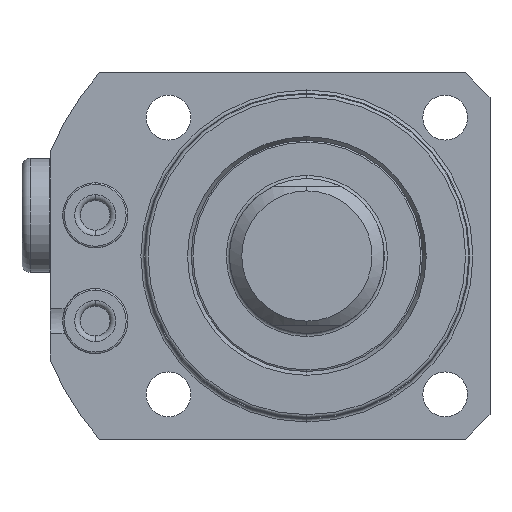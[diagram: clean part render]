
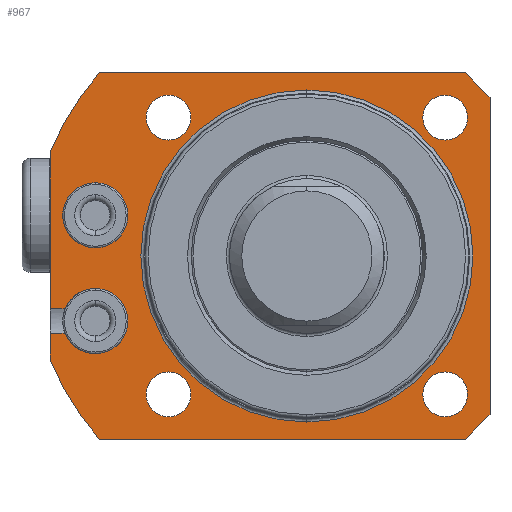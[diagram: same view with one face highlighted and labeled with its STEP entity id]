
A CAD part, front view. The second image highlights one B-rep face of the part: STEP entity #967.
In plain terms, the highlighted planar face has unit normal (0, -1, 0).
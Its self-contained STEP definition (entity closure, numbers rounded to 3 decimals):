
#370=PLANE('',#3947);
#428=FACE_BOUND('',#1456,.T.);
#429=FACE_BOUND('',#1457,.T.);
#430=FACE_BOUND('',#1458,.T.);
#431=FACE_BOUND('',#1459,.T.);
#432=FACE_BOUND('',#1460,.T.);
#433=FACE_BOUND('',#1461,.T.);
#434=FACE_BOUND('',#1462,.T.);
#652=LINE('',#6178,#815);
#653=LINE('',#6181,#816);
#654=LINE('',#6183,#817);
#655=LINE('',#6187,#818);
#656=LINE('',#6189,#819);
#657=LINE('',#6191,#820);
#658=LINE('',#6193,#821);
#659=LINE('',#6195,#822);
#660=LINE('',#6199,#823);
#815=VECTOR('',#4798,1.);
#816=VECTOR('',#4801,1.);
#817=VECTOR('',#4802,1.);
#818=VECTOR('',#4805,1.);
#819=VECTOR('',#4806,1.);
#820=VECTOR('',#4807,1.);
#821=VECTOR('',#4808,1.);
#822=VECTOR('',#4809,1.);
#823=VECTOR('',#4812,1.);
#967=ADVANCED_FACE('',(#428,#429,#430,#431,#432,#433,#434),#370,.T.);
#1456=EDGE_LOOP('',(#2013,#2014,#2015,#2016,#2017,#2018,#2019,#2020,#2021,
#2022,#2023,#2024,#2025,#2026));
#1457=EDGE_LOOP('',(#2027,#2028));
#1458=EDGE_LOOP('',(#2029,#2030));
#1459=EDGE_LOOP('',(#2031,#2032));
#1460=EDGE_LOOP('',(#2033,#2034));
#1461=EDGE_LOOP('',(#2035,#2036));
#1462=EDGE_LOOP('',(#2037,#2038));
#2013=ORIENTED_EDGE('',*,*,#3185,.F.);
#2014=ORIENTED_EDGE('',*,*,#3043,.F.);
#2015=ORIENTED_EDGE('',*,*,#3186,.F.);
#2016=ORIENTED_EDGE('',*,*,#3045,.F.);
#2017=ORIENTED_EDGE('',*,*,#3187,.F.);
#2018=ORIENTED_EDGE('',*,*,#3188,.T.);
#2019=ORIENTED_EDGE('',*,*,#3189,.T.);
#2020=ORIENTED_EDGE('',*,*,#3190,.T.);
#2021=ORIENTED_EDGE('',*,*,#3191,.T.);
#2022=ORIENTED_EDGE('',*,*,#3192,.T.);
#2023=ORIENTED_EDGE('',*,*,#3193,.T.);
#2024=ORIENTED_EDGE('',*,*,#3194,.T.);
#2025=ORIENTED_EDGE('',*,*,#3195,.T.);
#2026=ORIENTED_EDGE('',*,*,#3196,.T.);
#2027=ORIENTED_EDGE('',*,*,#3197,.F.);
#2028=ORIENTED_EDGE('',*,*,#3039,.F.);
#2029=ORIENTED_EDGE('',*,*,#3067,.F.);
#2030=ORIENTED_EDGE('',*,*,#3198,.F.);
#2031=ORIENTED_EDGE('',*,*,#3075,.F.);
#2032=ORIENTED_EDGE('',*,*,#3199,.F.);
#2033=ORIENTED_EDGE('',*,*,#3083,.F.);
#2034=ORIENTED_EDGE('',*,*,#3200,.F.);
#2035=ORIENTED_EDGE('',*,*,#3091,.F.);
#2036=ORIENTED_EDGE('',*,*,#3201,.F.);
#2037=ORIENTED_EDGE('',*,*,#3202,.F.);
#2038=ORIENTED_EDGE('',*,*,#3134,.F.);
#2685=VERTEX_POINT('',#5696);
#2686=VERTEX_POINT('',#5698);
#2689=VERTEX_POINT('',#5705);
#2690=VERTEX_POINT('',#5707);
#2691=VERTEX_POINT('',#5712);
#2692=VERTEX_POINT('',#5714);
#2711=VERTEX_POINT('',#5831);
#2712=VERTEX_POINT('',#5832);
#2719=VERTEX_POINT('',#5858);
#2720=VERTEX_POINT('',#5859);
#2727=VERTEX_POINT('',#5885);
#2728=VERTEX_POINT('',#5886);
#2735=VERTEX_POINT('',#5912);
#2736=VERTEX_POINT('',#5913);
#2769=VERTEX_POINT('',#6029);
#2770=VERTEX_POINT('',#6031);
#2809=VERTEX_POINT('',#6179);
#2810=VERTEX_POINT('',#6182);
#2811=VERTEX_POINT('',#6184);
#2812=VERTEX_POINT('',#6186);
#2813=VERTEX_POINT('',#6188);
#2814=VERTEX_POINT('',#6190);
#2815=VERTEX_POINT('',#6192);
#2816=VERTEX_POINT('',#6194);
#2817=VERTEX_POINT('',#6196);
#2818=VERTEX_POINT('',#6198);
#3039=EDGE_CURVE('',#2685,#2686,#3490,.T.);
#3043=EDGE_CURVE('',#2689,#2690,#3492,.T.);
#3045=EDGE_CURVE('',#2691,#2692,#3493,.T.);
#3067=EDGE_CURVE('',#2711,#2712,#3499,.T.);
#3075=EDGE_CURVE('',#2719,#2720,#3502,.T.);
#3083=EDGE_CURVE('',#2727,#2728,#3505,.T.);
#3091=EDGE_CURVE('',#2735,#2736,#3508,.T.);
#3134=EDGE_CURVE('',#2769,#2770,#3534,.T.);
#3185=EDGE_CURVE('',#2690,#2809,#652,.T.);
#3186=EDGE_CURVE('',#2692,#2689,#3558,.T.);
#3187=EDGE_CURVE('',#2810,#2691,#653,.T.);
#3188=EDGE_CURVE('',#2810,#2811,#654,.T.);
#3189=EDGE_CURVE('',#2811,#2812,#3559,.T.);
#3190=EDGE_CURVE('',#2812,#2813,#655,.T.);
#3191=EDGE_CURVE('',#2813,#2814,#656,.T.);
#3192=EDGE_CURVE('',#2814,#2815,#657,.T.);
#3193=EDGE_CURVE('',#2815,#2816,#658,.T.);
#3194=EDGE_CURVE('',#2816,#2817,#659,.T.);
#3195=EDGE_CURVE('',#2817,#2818,#3560,.T.);
#3196=EDGE_CURVE('',#2818,#2809,#660,.T.);
#3197=EDGE_CURVE('',#2686,#2685,#3561,.T.);
#3198=EDGE_CURVE('',#2712,#2711,#3562,.T.);
#3199=EDGE_CURVE('',#2720,#2719,#3563,.T.);
#3200=EDGE_CURVE('',#2728,#2727,#3564,.T.);
#3201=EDGE_CURVE('',#2736,#2735,#3565,.T.);
#3202=EDGE_CURVE('',#2770,#2769,#3566,.T.);
#3490=CIRCLE('',#3834,4.);
#3492=CIRCLE('',#3837,4.);
#3493=CIRCLE('',#3838,4.);
#3499=CIRCLE('',#3851,2.75);
#3502=CIRCLE('',#3856,2.75);
#3505=CIRCLE('',#3861,2.75);
#3508=CIRCLE('',#3866,2.75);
#3534=CIRCLE('',#3903,20.4);
#3558=CIRCLE('',#3938,4.);
#3559=CIRCLE('',#3939,34.);
#3560=CIRCLE('',#3940,34.);
#3561=CIRCLE('',#3941,4.);
#3562=CIRCLE('',#3942,2.75);
#3563=CIRCLE('',#3943,2.75);
#3564=CIRCLE('',#3944,2.75);
#3565=CIRCLE('',#3945,2.75);
#3566=CIRCLE('',#3946,20.4);
#3834=AXIS2_PLACEMENT_3D('',#5697,#4531,#4532);
#3837=AXIS2_PLACEMENT_3D('',#5706,#4539,#4540);
#3838=AXIS2_PLACEMENT_3D('',#5713,#4541,#4542);
#3851=AXIS2_PLACEMENT_3D('',#5830,#4580,#4581);
#3856=AXIS2_PLACEMENT_3D('',#5857,#4594,#4595);
#3861=AXIS2_PLACEMENT_3D('',#5884,#4608,#4609);
#3866=AXIS2_PLACEMENT_3D('',#5911,#4622,#4623);
#3903=AXIS2_PLACEMENT_3D('',#6030,#4712,#4713);
#3938=AXIS2_PLACEMENT_3D('',#6180,#4799,#4800);
#3939=AXIS2_PLACEMENT_3D('',#6185,#4803,#4804);
#3940=AXIS2_PLACEMENT_3D('',#6197,#4810,#4811);
#3941=AXIS2_PLACEMENT_3D('',#6200,#4813,#4814);
#3942=AXIS2_PLACEMENT_3D('',#6201,#4815,#4816);
#3943=AXIS2_PLACEMENT_3D('',#6202,#4817,#4818);
#3944=AXIS2_PLACEMENT_3D('',#6203,#4819,#4820);
#3945=AXIS2_PLACEMENT_3D('',#6204,#4821,#4822);
#3946=AXIS2_PLACEMENT_3D('',#6205,#4823,#4824);
#3947=AXIS2_PLACEMENT_3D('',#6206,#4825,#4826);
#4531=DIRECTION('',(0.,-1.,0.));
#4532=DIRECTION('',(0.,0.,-1.));
#4539=DIRECTION('',(0.,-1.,0.));
#4540=DIRECTION('',(0.,0.,-1.));
#4541=DIRECTION('',(0.,-1.,0.));
#4542=DIRECTION('',(0.,0.,-1.));
#4580=DIRECTION('',(0.,-1.,0.));
#4581=DIRECTION('',(0.,0.,-1.));
#4594=DIRECTION('',(0.,-1.,0.));
#4595=DIRECTION('',(0.,0.,-1.));
#4608=DIRECTION('',(0.,-1.,0.));
#4609=DIRECTION('',(0.,0.,-1.));
#4622=DIRECTION('',(0.,-1.,0.));
#4623=DIRECTION('',(0.,0.,-1.));
#4712=DIRECTION('',(0.,-1.,0.));
#4713=DIRECTION('',(0.,0.,-1.));
#4798=DIRECTION('',(-1.,0.,0.));
#4799=DIRECTION('',(0.,-1.,0.));
#4800=DIRECTION('',(0.,0.,-1.));
#4801=DIRECTION('',(1.,0.,0.));
#4802=DIRECTION('',(0.,0.,-1.));
#4803=DIRECTION('',(0.,-1.,0.));
#4804=DIRECTION('',(0.,0.,-1.));
#4805=DIRECTION('',(1.,0.,0.));
#4806=DIRECTION('',(0.707,0.,0.707));
#4807=DIRECTION('',(0.,0.,1.));
#4808=DIRECTION('',(-0.707,0.,0.707));
#4809=DIRECTION('',(-1.,0.,0.));
#4810=DIRECTION('',(0.,-1.,0.));
#4811=DIRECTION('',(0.,0.,-1.));
#4812=DIRECTION('',(0.,0.,-1.));
#4813=DIRECTION('',(0.,-1.,0.));
#4814=DIRECTION('',(0.,0.,-1.));
#4815=DIRECTION('',(0.,-1.,0.));
#4816=DIRECTION('',(0.,0.,-1.));
#4817=DIRECTION('',(0.,-1.,0.));
#4818=DIRECTION('',(0.,0.,-1.));
#4819=DIRECTION('',(0.,-1.,0.));
#4820=DIRECTION('',(0.,0.,-1.));
#4821=DIRECTION('',(0.,-1.,0.));
#4822=DIRECTION('',(0.,0.,-1.));
#4823=DIRECTION('',(0.,-1.,0.));
#4824=DIRECTION('',(0.,0.,-1.));
#4825=DIRECTION('',(0.,-1.,0.));
#4826=DIRECTION('',(0.,0.,1.));
#5696=CARTESIAN_POINT('',(-26.,60.163,9.));
#5697=CARTESIAN_POINT('',(-26.,60.163,5.));
#5698=CARTESIAN_POINT('',(-26.,60.163,1.));
#5705=CARTESIAN_POINT('',(-26.,60.163,-4.));
#5706=CARTESIAN_POINT('',(-26.,60.163,-8.));
#5707=CARTESIAN_POINT('',(-29.7,60.163,-6.48));
#5712=CARTESIAN_POINT('',(-29.7,60.163,-9.52));
#5713=CARTESIAN_POINT('',(-26.,60.163,-8.));
#5714=CARTESIAN_POINT('',(-26.,60.163,-12.));
#5830=CARTESIAN_POINT('',(-17.,60.163,-17.));
#5831=CARTESIAN_POINT('',(-17.,60.163,-14.25));
#5832=CARTESIAN_POINT('',(-17.,60.163,-19.75));
#5857=CARTESIAN_POINT('',(17.,60.163,-17.));
#5858=CARTESIAN_POINT('',(17.,60.163,-14.25));
#5859=CARTESIAN_POINT('',(17.,60.163,-19.75));
#5884=CARTESIAN_POINT('',(17.,60.163,17.));
#5885=CARTESIAN_POINT('',(17.,60.163,19.75));
#5886=CARTESIAN_POINT('',(17.,60.163,14.25));
#5911=CARTESIAN_POINT('',(-17.,60.163,17.));
#5912=CARTESIAN_POINT('',(-17.,60.163,19.75));
#5913=CARTESIAN_POINT('',(-17.,60.163,14.25));
#6029=CARTESIAN_POINT('',(0.,60.163,20.4));
#6030=CARTESIAN_POINT('',(0.,60.163,0.));
#6031=CARTESIAN_POINT('',(0.,60.163,-20.4));
#6178=CARTESIAN_POINT('',(-26.5,60.163,-6.48));
#6179=CARTESIAN_POINT('',(-31.5,60.163,-6.48));
#6180=CARTESIAN_POINT('',(-26.,60.163,-8.));
#6181=CARTESIAN_POINT('',(-26.5,60.163,-9.52));
#6182=CARTESIAN_POINT('',(-31.5,60.163,-9.52));
#6183=CARTESIAN_POINT('',(-31.5,60.163,0.));
#6184=CARTESIAN_POINT('',(-31.5,60.163,-12.796));
#6185=CARTESIAN_POINT('',(0.,60.163,0.));
#6186=CARTESIAN_POINT('',(-25.49,60.163,-22.5));
#6187=CARTESIAN_POINT('',(0.,60.163,-22.5));
#6188=CARTESIAN_POINT('',(19.5,60.163,-22.5));
#6189=CARTESIAN_POINT('',(21.,60.163,-21.));
#6190=CARTESIAN_POINT('',(22.5,60.163,-19.5));
#6191=CARTESIAN_POINT('',(22.5,60.163,0.));
#6192=CARTESIAN_POINT('',(22.5,60.163,19.5));
#6193=CARTESIAN_POINT('',(21.,60.163,21.));
#6194=CARTESIAN_POINT('',(19.5,60.163,22.5));
#6195=CARTESIAN_POINT('',(0.,60.163,22.5));
#6196=CARTESIAN_POINT('',(-25.49,60.163,22.5));
#6197=CARTESIAN_POINT('',(0.,60.163,0.));
#6198=CARTESIAN_POINT('',(-31.5,60.163,12.796));
#6199=CARTESIAN_POINT('',(-31.5,60.163,0.));
#6200=CARTESIAN_POINT('',(-26.,60.163,5.));
#6201=CARTESIAN_POINT('',(-17.,60.163,-17.));
#6202=CARTESIAN_POINT('',(17.,60.163,-17.));
#6203=CARTESIAN_POINT('',(17.,60.163,17.));
#6204=CARTESIAN_POINT('',(-17.,60.163,17.));
#6205=CARTESIAN_POINT('',(0.,60.163,0.));
#6206=CARTESIAN_POINT('',(0.,60.163,0.));
